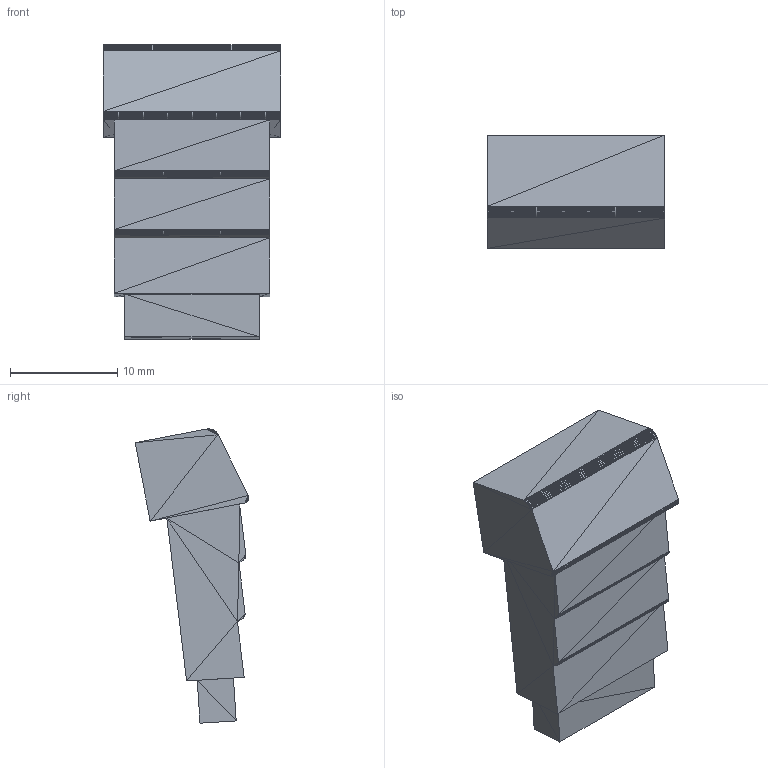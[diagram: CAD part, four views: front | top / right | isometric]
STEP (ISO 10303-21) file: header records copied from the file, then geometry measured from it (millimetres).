
FILE_DESCRIPTION((''),'2;1');
FILE_NAME('Index Finger K2 Inner', '2025-03-27T07:43:01', (''), (''), 'ImageToStl.com STEP Converter','', '');
FILE_SCHEMA(('AUTOMOTIVE_DESIGN_CC2'));
Length unit declared in the file: metre
Products named in the file (1): product0
Bounding box: 16.5 x 10.59 x 27.4 mm (x, y, z)
Surface area: 1413 mm2 (no closed solid volume)
Topology: 0 solids, 734 shells, 734 faces, 2202 edges, 369 vertices
Faces by surface type: plane 734
Entity records: 17655 total; most frequent: DIRECTION 3672, ORIENTED_EDGE 2202, EDGE_CURVE 2202, LINE 2202, VECTOR 2202, AXIS2_PLACEMENT_3D 735, STYLED_ITEM 735, FACE_SURFACE 734
